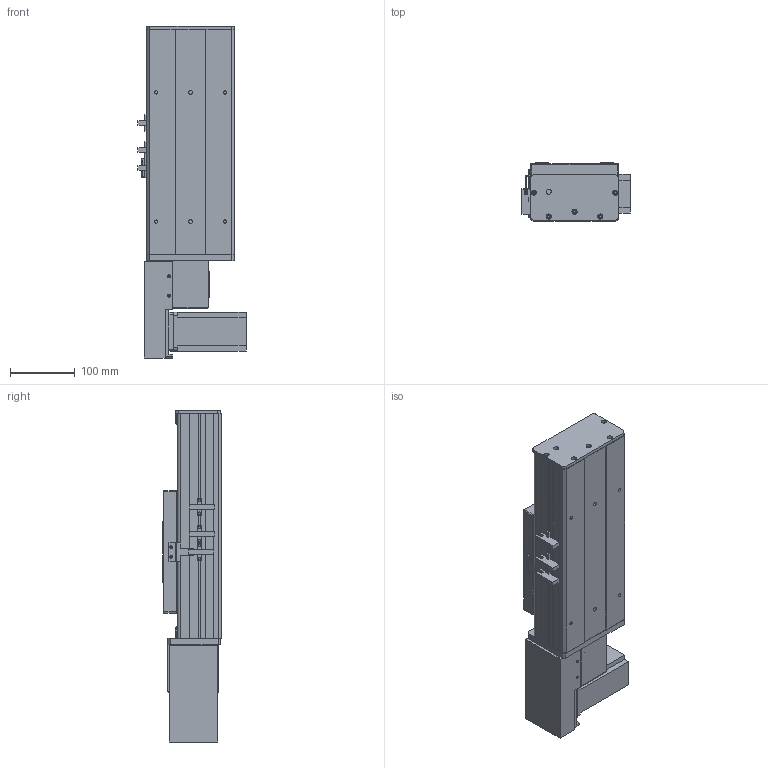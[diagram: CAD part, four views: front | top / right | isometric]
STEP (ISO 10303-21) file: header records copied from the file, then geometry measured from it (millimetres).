
FILE_DESCRIPTION (( 'STEP AP203' ), '1' );
FILE_NAME ('Y135CB-D90-S50-BR-P400W.STEP', '2020-02-18T02:04:04', ( '微软用户' ), ( '微软中国' ), 'SwSTEP 2.0', 'SolidWorks 2017', '' );
FILE_SCHEMA (( 'CONFIG_CONTROL_DESIGN' ));
Length unit declared in the file: millimetre
Products named in the file (18): Y100-135俋离換覜ん--; Y俋欶BR----; Y135C-陔俋离換覜結え-; 0B-埴倛裔啣; 5C--俋欶; 0B-源倛裔啣; C-雄赽釱--; 0B-萇儂楊擘啣; Y10B--々湍喘謫眊--666; san松下电机400不带刹车----; Y135CB-耜裔; Y135CB-D90-S50-BR-P400W; 5CB --掛极耜裔啣-; 135CB---遴掛极.-; C-詩湍揤踡え-陔; 35CB---喘謫眊楊擘啣; 135CB--詩湍-CE; Y10B-耜蚾蟀諉啣----
Assembly tree (21 placements, depth 2):
  Y135CB-D90-S50-BR-P400W
    Y135CB-耜裔
    135CB---遴掛极.-
    35CB---喘謫眊楊擘啣
    Y10B-耜蚾蟀諉啣----
    Y俋欶BR----
    0B-埴倛裔啣
    0B-源倛裔啣
    0B-萇儂楊擘啣
    san松下电机400不带刹车----
    5CB --掛极耜裔啣-  x2
    C-詩湍揤踡え-陔  x2
    135CB--詩湍-CE
    Y100-135俋离換覜ん--  x3
    Y135C-陔俋离換覜結え-
    5C--俋欶
    C-雄赽釱--
    Y10B--々湍喘謫眊--666
Bounding box: 167.5 x 91 x 514.5 mm (x, y, z)
Volume: 1920293.6 mm3; surface area: 726903.4 mm2
Topology: 21 solids, 21 shells, 925 faces, 2437 edges, 1614 vertices
Faces by surface type: plane 458, cylinder 451, cone 16
Entity records: 28339 total; most frequent: DIRECTION 4701, CARTESIAN_POINT 4600, ORIENTED_EDGE 4350, EDGE_CURVE 2175, AXIS2_PLACEMENT_3D 1703, VERTEX_POINT 1442, VECTOR 1295, LINE 1295
